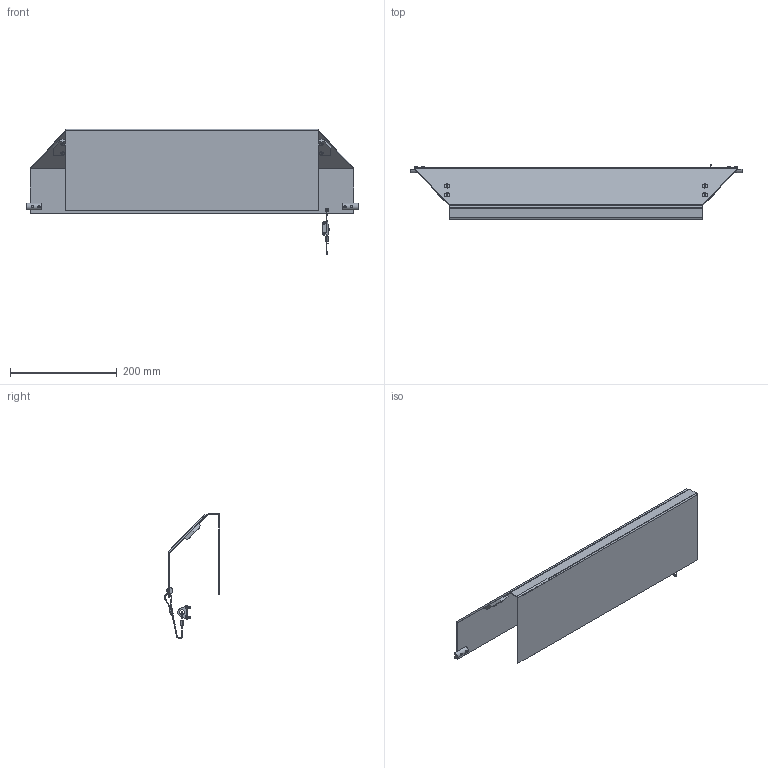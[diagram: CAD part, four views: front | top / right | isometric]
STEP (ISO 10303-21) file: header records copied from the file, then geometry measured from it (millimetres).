
FILE_DESCRIPTION((''),'2;1');
FILE_NAME('301344_ASM','2023-03-03T',('jenni.wallner'),(''),'PRO/ENGINEER BY PARAMETRIC TECHNOLOGY CORPORATION, 2012420','PRO/ENGINEER BY PARAMETRIC TECHNOLOGY CORPORATION, 2012420','');
FILE_SCHEMA(('CONFIG_CONTROL_DESIGN'));
Length unit declared in the file: inch
Products named in the file (11): 301290; 301299; 300774M; 300741M; 910408M; 930510M; 807-1086; 804-506; 807-1085; 920306M; 301344_ASM
Assembly tree (20 placements, depth 2):
  301344_ASM
    301290
    301299
    300774M  x2
    300741M  x2
    910408M  x4
    930510M  x4
    807-1086
    804-506
    807-1085  x2
    920306M  x2
Bounding box: 622.5 x 103.44 x 234.74 mm (x, y, z)
Volume: 451819.6 mm3; surface area: 487821.7 mm2
Topology: 20 solids, 28 shells, 400 faces, 944 edges, 596 vertices
Faces by surface type: plane 179, cylinder 141, cone 56, torus 14, bspline 10
Entity records: 7320 total; most frequent: CARTESIAN_POINT 1446, DIRECTION 1278, ORIENTED_EDGE 1080, EDGE_CURVE 548, AXIS2_PLACEMENT_3D 490, VERTEX_POINT 342, VECTOR 298, LINE 298
